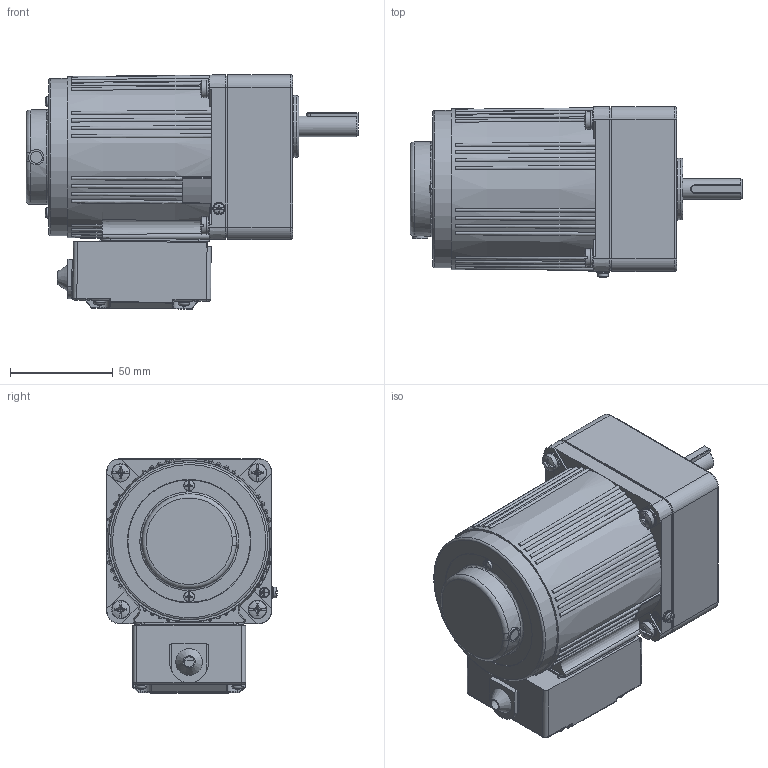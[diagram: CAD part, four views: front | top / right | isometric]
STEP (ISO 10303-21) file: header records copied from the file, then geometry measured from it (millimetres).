
FILE_DESCRIPTION(/* description */ (''),/* implementation_level */ '2;1');
FILE_NAME(/* name */ '4RK25-40RGNC·T-4GN3-20K-C·10L长款接线盒.stp',/* time_stamp */ '2025-04-13T15:35:39+08:00',/* author */ (''),/* organization */ (''),/* preprocessor_version */ 'ST-DEVELOPER v18.102',/* originating_system */ 'SIEMENS PLM Software NX 2027',/* authorisation */ '');
FILE_SCHEMA (('AP203_CONFIGURATION_CONTROLLED_3D_DESIGN_OF_MECHANICAL_PARTS_AND_ASSEMBLIES_MIM_LF { 1 0 10303 403 2 1 2}'));
Products named in the file (1): 4RK25-40CC·R-4GN3-20K-C·10L_stp_M066263C6523mtu3
Bounding box: 161.3 x 82.78 x 113.83 mm (x, y, z)
Volume: 698694.1 mm3; surface area: 112822 mm2
Topology: 8 solids, 9 shells, 1498 faces, 3954 edges, 2535 vertices
Faces by surface type: plane 606, cylinder 380, bspline 284, torus 96, cone 90, sphere 38, revolution 4
Full cylindrical faces by diameter (mm): 2.2 x2, 2.6 x1, 2.7 x1, 2.9 x4, 3.2 x1, 3.5 x2, 4 x1, 4.2 x5, 4.4 x1, 4.6 x4, 4.8 x1, 5 x5, 5.1 x3, 5.3 x4, 5.6 x4, 5.8 x1, 6 x7, 6.5 x4, 7 x1, 7.4 x1, 8 x1, 8.2 x1, 8.5 x4, 9 x4, 10 x3, 10.5 x1, 19 x1, 26 x1, 30 x1, 46 x1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
Entity records: 52181 total; most frequent: CARTESIAN_POINT 18505, ORIENTED_EDGE 7396, DIRECTION 5957, EDGE_CURVE 3698, VERTEX_POINT 2453, AXIS2_PLACEMENT_3D 2276, EDGE_LOOP 1770, ADVANCED_FACE 1495
